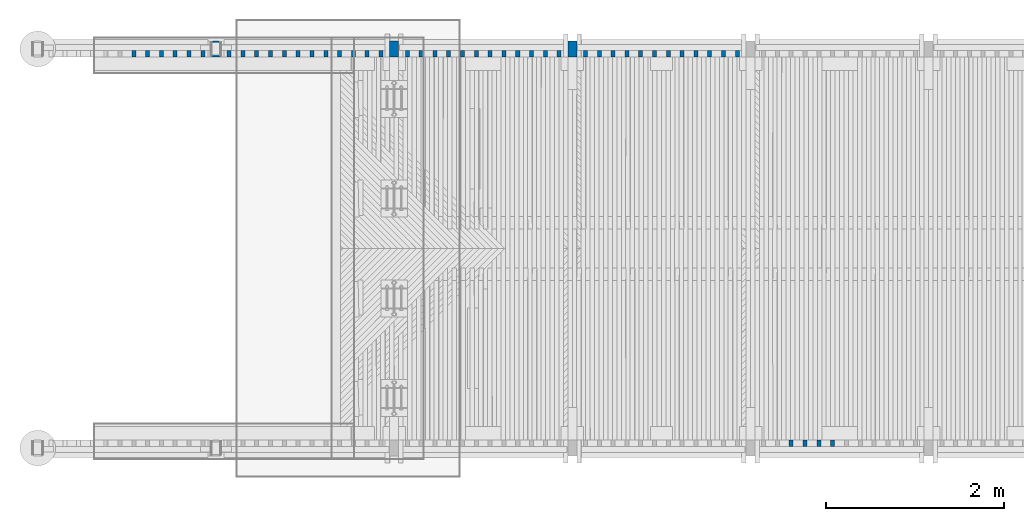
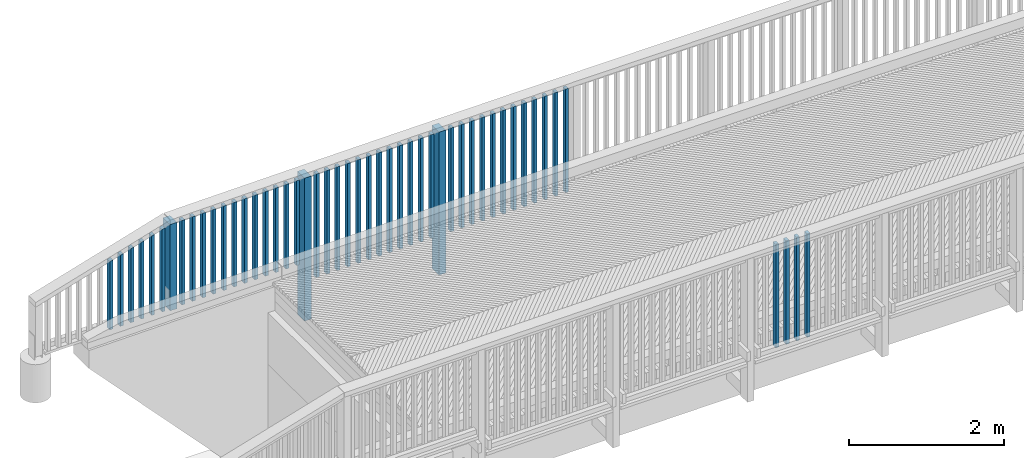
# One storey, part 7 of 52: 49 columns.
"""IFC2X3 building model written with IfcOpenShell, lengths in millimetres."""

from ifc_helpers import new_model, si_unit, frame, origin_with_axes, place, context, subcontext, project, spatial, faceted_brep, material, type_object, element, save


model = new_model("IFC2X3")

# Units and contexts
model_context = context("Model", 3, precision=1e-05, world=origin_with_axes())
body_context = subcontext(model_context, "Body", "Model", "MODEL_VIEW")
ifc_project = project(units=[si_unit("LENGTHUNIT", "METRE", prefix="MILLI"), si_unit("AREAUNIT", "SQUARE_METRE"), si_unit("VOLUMEUNIT", "CUBIC_METRE"), si_unit("MASSUNIT", "GRAM", prefix="KILO"), si_unit("TIMEUNIT", "SECOND"), si_unit("PLANEANGLEUNIT", "RADIAN"), si_unit("SOLIDANGLEUNIT", "STERADIAN"), si_unit("THERMODYNAMICTEMPERATUREUNIT", "DEGREE_CELSIUS"), si_unit("LUMINOUSINTENSITYUNIT", "LUMEN")], contexts=[model_context])

# Site, building, storey
site_placement = place(None, origin_with_axes())
site = spatial("IfcSite", under=ifc_project, at=site_placement, Name="Undefined", CompositionType="ELEMENT")
building_placement = place(site_placement, origin_with_axes())
building = spatial("IfcBuilding", under=site, at=building_placement, Name="Undefined", CompositionType="ELEMENT")
storey_placement = place(building_placement, origin_with_axes())
storey = spatial("IfcBuildingStorey", under=building, at=storey_placement, Name="Undefined", CompositionType="ELEMENT", Elevation=0.0)

# Columns
ifc_material = material(Name="TIMBER/Timber_Undefined")
column_type_1 = type_object("IfcColumnType", Name="180*100", PredefinedType="NOTDEFINED")
for number, where, z_axis, x_axis in (
    (1, (2000.00006783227, 4604.98790809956, 2283.46176658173), (0.0, -1.0, 0.0), (0.0, 0.0, 1.0)),
    (2, (7.51175321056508e-07, 4604.98790809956, 2260.26), (0.0, -1.0, 0.0), (0.0, 0.0, 1.0)),
):
    element("IfcColumn", number, at=place(storey_placement, frame(where, z_axis=z_axis, x_axis=x_axis)), inside=storey, type_object=column_type_1, material=ifc_material, Name="KAIDEPYLVÄS", ObjectType="180*100", context=body_context, shape_type="Brep", body=[
        faceted_brep([(0.0, 50.0, -90.0), (0.0, 50.0, 90.0), (2250.0, 50.0, 90.0), (2250.0, 50.0, -90.0), (0.0, -50.0, 90.0), (2250.0, -50.0, 90.0), (0.0, -50.0, -90.0), (2250.0, -50.0, -90.0)], [[[0, 1, 2, 3]], [[1, 4, 5, 2]], [[4, 6, 7, 5]], [[6, 0, 3, 7]], [[5, 7, 3, 2]], [[6, 4, 1, 0]]]),
    ])
column_1_placement = place(storey_placement, frame((-1999.99999924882, 4604.98790809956, 3128.37999999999), z_axis=(0.0, -1.0, 0.0), x_axis=(0.0, 0.0, 1.0)))
element("IfcColumn", 3, at=column_1_placement, inside=storey, type_object=column_type_1, material=ifc_material, Name="KAIDEPYLVÄS", ObjectType="180*100", context=body_context, shape_type="Brep", body=[
    faceted_brep([(-5.71000000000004, 50.0, -90.0), (-5.71000000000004, 50.0, 90.0), (1351.21940355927, 50.0, 90.0), (1351.21940355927, 50.0, -90.0), (-5.71000000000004, -50.0, 90.0), (1352.87649222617, -50.0, 90.0), (-5.71000000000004, -50.0, -90.0), (1352.87649222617, -50.0, -90.0)], [[[0, 1, 2, 3]], [[1, 4, 5, 2]], [[4, 6, 7, 5]], [[6, 0, 3, 7]], [[5, 7, 3, 2]], [[6, 4, 1, 0]]]),
])
column_type_2 = type_object("IfcColumnType", Name="70*45", PredefinedType="NOTDEFINED")
column_2_placement = place(storey_placement, frame((3852.50000075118, 4549.98790809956, 3109.68000000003), z_axis=(0.0, 1.0, 0.0), x_axis=(0.0, 0.0, 1.0)))
element("IfcColumn", 4, at=column_2_placement, inside=storey, type_object=column_type_2, material=ifc_material, Name="BEAM", ObjectType="70*45", context=body_context, shape_type="Brep", body=[
    faceted_brep([(-190.293697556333, 22.5, -35.0), (-190.293697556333, 22.5, 35.0), (1439.69971686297, 22.5, 35.0), (1439.69971686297, 22.5, -35.0), (-190.686194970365, -22.5, 35.0), (1439.30721944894, -22.5, 35.0), (-190.686194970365, -22.5, -35.0), (1439.30721944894, -22.5, -35.0)], [[[0, 1, 2, 3]], [[1, 4, 5, 2]], [[4, 6, 7, 5]], [[6, 0, 3, 7]], [[5, 7, 3, 2]], [[6, 4, 1, 0]]]),
])
column_3_placement = place(storey_placement, frame((3697.50000075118, 4549.98790809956, 3109.68000000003), z_axis=(0.0, 1.0, 0.0), x_axis=(0.0, 0.0, 1.0)))
element("IfcColumn", 5, at=column_3_placement, inside=storey, type_object=column_type_2, material=ifc_material, Name="BEAM", ObjectType="70*45", context=body_context, shape_type="Brep", body=[
    faceted_brep([(-191.645633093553, 22.5, -35.0), (-191.645633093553, 22.5, 35.0), (1438.34778132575, 22.5, 35.0), (1438.34778132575, 22.5, -35.0), (-192.038130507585, -22.5, 35.0), (1437.95528391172, -22.5, 35.0), (-192.038130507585, -22.5, -35.0), (1437.95528391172, -22.5, -35.0)], [[[0, 1, 2, 3]], [[1, 4, 5, 2]], [[4, 6, 7, 5]], [[6, 0, 3, 7]], [[5, 7, 3, 2]], [[6, 4, 1, 0]]]),
])
column_4_placement = place(storey_placement, frame((3542.50000075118, 4549.98790809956, 3109.68000000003), z_axis=(0.0, 1.0, 0.0), x_axis=(0.0, 0.0, 1.0)))
element("IfcColumn", 6, at=column_4_placement, inside=storey, type_object=column_type_2, material=ifc_material, Name="BEAM", ObjectType="70*45", context=body_context, shape_type="Brep", body=[
    faceted_brep([(-192.997568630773, 22.5, -35.0), (-192.997568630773, 22.5, 35.0), (1436.99584578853, 22.5, 35.0), (1436.99584578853, 22.5, -35.0), (-193.390066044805, -22.5, 35.0), (1436.6033483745, -22.5, 35.0), (-193.390066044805, -22.5, -35.0), (1436.6033483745, -22.5, -35.0)], [[[0, 1, 2, 3]], [[1, 4, 5, 2]], [[4, 6, 7, 5]], [[6, 0, 3, 7]], [[5, 7, 3, 2]], [[6, 4, 1, 0]]]),
])
column_5_placement = place(storey_placement, frame((3387.50000075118, 4549.98790809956, 3109.68000000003), z_axis=(0.0, 1.0, 0.0), x_axis=(0.0, 0.0, 1.0)))
element("IfcColumn", 7, at=column_5_placement, inside=storey, type_object=column_type_2, material=ifc_material, Name="BEAM", ObjectType="70*45", context=body_context, shape_type="Brep", body=[
    faceted_brep([(-194.349504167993, 22.5, -35.0), (-194.349504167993, 22.5, 35.0), (1435.64391025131, 22.5, 35.0), (1435.64391025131, 22.5, -35.0), (-194.742001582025, -22.5, 35.0), (1435.25141283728, -22.5, 35.0), (-194.742001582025, -22.5, -35.0), (1435.25141283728, -22.5, -35.0)], [[[0, 1, 2, 3]], [[1, 4, 5, 2]], [[4, 6, 7, 5]], [[6, 0, 3, 7]], [[5, 7, 3, 2]], [[6, 4, 1, 0]]]),
])
column_6_placement = place(storey_placement, frame((3232.50000075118, 4549.98790809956, 3109.68000000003), z_axis=(0.0, 1.0, 0.0), x_axis=(0.0, 0.0, 1.0)))
element("IfcColumn", 8, at=column_6_placement, inside=storey, type_object=column_type_2, material=ifc_material, Name="BEAM", ObjectType="70*45", context=body_context, shape_type="Brep", body=[
    faceted_brep([(-195.701439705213, 22.5, -35.0), (-195.701439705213, 22.5, 35.0), (1434.29197471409, 22.5, 35.0), (1434.29197471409, 22.5, -35.0), (-196.093937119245, -22.5, 35.0), (1433.89947730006, -22.5, 35.0), (-196.093937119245, -22.5, -35.0), (1433.89947730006, -22.5, -35.0)], [[[0, 1, 2, 3]], [[1, 4, 5, 2]], [[4, 6, 7, 5]], [[6, 0, 3, 7]], [[5, 7, 3, 2]], [[6, 4, 1, 0]]]),
])
column_7_placement = place(storey_placement, frame((3077.50000075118, 4549.98790809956, 3109.68000000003), z_axis=(0.0, 1.0, 0.0), x_axis=(0.0, 0.0, 1.0)))
element("IfcColumn", 9, at=column_7_placement, inside=storey, type_object=column_type_2, material=ifc_material, Name="BEAM", ObjectType="70*45", context=body_context, shape_type="Brep", body=[
    faceted_brep([(-197.053375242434, 22.5, -35.0), (-197.053375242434, 22.5, 35.0), (1432.94003917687, 22.5, 35.0), (1432.94003917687, 22.5, -35.0), (-197.445872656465, -22.5, 35.0), (1432.54754176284, -22.5, 35.0), (-197.445872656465, -22.5, -35.0), (1432.54754176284, -22.5, -35.0)], [[[0, 1, 2, 3]], [[1, 4, 5, 2]], [[4, 6, 7, 5]], [[6, 0, 3, 7]], [[5, 7, 3, 2]], [[6, 4, 1, 0]]]),
])
column_8_placement = place(storey_placement, frame((2922.50000075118, 4549.98790809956, 3109.68000000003), z_axis=(0.0, 1.0, 0.0), x_axis=(0.0, 0.0, 1.0)))
element("IfcColumn", 10, at=column_8_placement, inside=storey, type_object=column_type_2, material=ifc_material, Name="BEAM", ObjectType="70*45", context=body_context, shape_type="Brep", body=[
    faceted_brep([(-198.405310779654, 22.5, -35.0), (-198.405310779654, 22.5, 35.0), (1431.58810363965, 22.5, 35.0), (1431.58810363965, 22.5, -35.0), (-198.797808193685, -22.5, 35.0), (1431.19560622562, -22.5, 35.0), (-198.797808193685, -22.5, -35.0), (1431.19560622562, -22.5, -35.0)], [[[0, 1, 2, 3]], [[1, 4, 5, 2]], [[4, 6, 7, 5]], [[6, 0, 3, 7]], [[5, 7, 3, 2]], [[6, 4, 1, 0]]]),
])
column_9_placement = place(storey_placement, frame((2767.50000075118, 4549.98790809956, 3109.68000000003), z_axis=(0.0, 1.0, 0.0), x_axis=(0.0, 0.0, 1.0)))
element("IfcColumn", 11, at=column_9_placement, inside=storey, type_object=column_type_2, material=ifc_material, Name="BEAM", ObjectType="70*45", context=body_context, shape_type="Brep", body=[
    faceted_brep([(-199.757246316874, 22.5, -35.0), (-199.757246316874, 22.5, 35.0), (1430.23616810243, 22.5, 35.0), (1430.23616810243, 22.5, -35.0), (-200.149743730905, -22.5, 35.0), (1429.8436706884, -22.5, 35.0), (-200.149743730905, -22.5, -35.0), (1429.8436706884, -22.5, -35.0)], [[[0, 1, 2, 3]], [[1, 4, 5, 2]], [[4, 6, 7, 5]], [[6, 0, 3, 7]], [[5, 7, 3, 2]], [[6, 4, 1, 0]]]),
])
column_10_placement = place(storey_placement, frame((2612.50000075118, 4549.98790809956, 3109.68000000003), z_axis=(0.0, 1.0, 0.0), x_axis=(0.0, 0.0, 1.0)))
element("IfcColumn", 12, at=column_10_placement, inside=storey, type_object=column_type_2, material=ifc_material, Name="BEAM", ObjectType="70*45", context=body_context, shape_type="Brep", body=[
    faceted_brep([(-201.109181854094, 22.5, -35.0), (-201.109181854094, 22.5, 35.0), (1428.88423256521, 22.5, 35.0), (1428.88423256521, 22.5, -35.0), (-201.501679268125, -22.5, 35.0), (1428.49173515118, -22.5, 35.0), (-201.501679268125, -22.5, -35.0), (1428.49173515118, -22.5, -35.0)], [[[0, 1, 2, 3]], [[1, 4, 5, 2]], [[4, 6, 7, 5]], [[6, 0, 3, 7]], [[5, 7, 3, 2]], [[6, 4, 1, 0]]]),
])
column_11_placement = place(storey_placement, frame((2457.50000075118, 4549.98790809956, 3109.68000000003), z_axis=(0.0, 1.0, 0.0), x_axis=(0.0, 0.0, 1.0)))
element("IfcColumn", 13, at=column_11_placement, inside=storey, type_object=column_type_2, material=ifc_material, Name="BEAM", ObjectType="70*45", context=body_context, shape_type="Brep", body=[
    faceted_brep([(-202.461117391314, 22.5, -35.0), (-202.461117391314, 22.5, 35.0), (1427.53229702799, 22.5, 35.0), (1427.53229702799, 22.5, -35.0), (-202.853614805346, -22.5, 35.0), (1427.13979961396, -22.5, 35.0), (-202.853614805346, -22.5, -35.0), (1427.13979961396, -22.5, -35.0)], [[[0, 1, 2, 3]], [[1, 4, 5, 2]], [[4, 6, 7, 5]], [[6, 0, 3, 7]], [[5, 7, 3, 2]], [[6, 4, 1, 0]]]),
])
column_12_placement = place(storey_placement, frame((2302.50000075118, 4549.98790809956, 3109.68000000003), z_axis=(0.0, 1.0, 0.0), x_axis=(0.0, 0.0, 1.0)))
element("IfcColumn", 14, at=column_12_placement, inside=storey, type_object=column_type_2, material=ifc_material, Name="BEAM", ObjectType="70*45", context=body_context, shape_type="Brep", body=[
    faceted_brep([(-203.813052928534, 22.5, -35.0), (-203.813052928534, 22.5, 35.0), (1426.18036149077, 22.5, 35.0), (1426.18036149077, 22.5, -35.0), (-204.205550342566, -22.5, 35.0), (1425.78786407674, -22.5, 35.0), (-204.205550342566, -22.5, -35.0), (1425.78786407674, -22.5, -35.0)], [[[0, 1, 2, 3]], [[1, 4, 5, 2]], [[4, 6, 7, 5]], [[6, 0, 3, 7]], [[5, 7, 3, 2]], [[6, 4, 1, 0]]]),
])
column_13_placement = place(storey_placement, frame((2147.50000075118, 4549.98790809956, 3109.68000000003), z_axis=(0.0, 1.0, 0.0), x_axis=(0.0, 0.0, 1.0)))
element("IfcColumn", 15, at=column_13_placement, inside=storey, type_object=column_type_2, material=ifc_material, Name="BEAM", ObjectType="70*45", context=body_context, shape_type="Brep", body=[
    faceted_brep([(-205.164988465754, 22.5, -35.0), (-205.164988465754, 22.5, 35.0), (1424.82842595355, 22.5, 35.0), (1424.82842595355, 22.5, -35.0), (-205.557485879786, -22.5, 35.0), (1424.43592853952, -22.5, 35.0), (-205.557485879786, -22.5, -35.0), (1424.43592853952, -22.5, -35.0)], [[[0, 1, 2, 3]], [[1, 4, 5, 2]], [[4, 6, 7, 5]], [[6, 0, 3, 7]], [[5, 7, 3, 2]], [[6, 4, 1, 0]]]),
])
column_14_placement = place(storey_placement, frame((1852.50000075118, 4549.98790809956, 3109.68000000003), z_axis=(0.0, 1.0, 0.0), x_axis=(0.0, 0.0, 1.0)))
element("IfcColumn", 16, at=column_14_placement, inside=storey, type_object=column_type_2, material=ifc_material, Name="BEAM", ObjectType="70*45", context=body_context, shape_type="Brep", body=[
    faceted_brep([(-207.130064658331, 22.5, -35.0), (-207.130064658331, 22.5, 35.0), (1422.86590579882, 22.5, 35.0), (1422.86590579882, 22.5, -35.0), (-207.679580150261, -22.5, 35.0), (1422.31639030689, -22.5, 35.0), (-207.679580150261, -22.5, -35.0), (1422.31639030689, -22.5, -35.0)], [[[0, 1, 2, 3]], [[1, 4, 5, 2]], [[4, 6, 7, 5]], [[6, 0, 3, 7]], [[5, 7, 3, 2]], [[6, 4, 1, 0]]]),
])
column_15_placement = place(storey_placement, frame((1697.50000075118, 4549.98790809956, 3109.68000000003), z_axis=(0.0, 1.0, 0.0), x_axis=(0.0, 0.0, 1.0)))
element("IfcColumn", 17, at=column_15_placement, inside=storey, type_object=column_type_2, material=ifc_material, Name="BEAM", ObjectType="70*45", context=body_context, shape_type="Brep", body=[
    faceted_brep([(-209.022840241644, 22.5, -35.0), (-209.022840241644, 22.5, 35.0), (1420.97313021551, 22.5, 35.0), (1420.97313021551, 22.5, -35.0), (-209.572355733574, -22.5, 35.0), (1420.42361472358, -22.5, 35.0), (-209.572355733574, -22.5, -35.0), (1420.42361472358, -22.5, -35.0)], [[[0, 1, 2, 3]], [[1, 4, 5, 2]], [[4, 6, 7, 5]], [[6, 0, 3, 7]], [[5, 7, 3, 2]], [[6, 4, 1, 0]]]),
])
column_16_placement = place(storey_placement, frame((1542.50000075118, 4549.98790809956, 3109.68000000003), z_axis=(0.0, 1.0, 0.0), x_axis=(0.0, 0.0, 1.0)))
element("IfcColumn", 18, at=column_16_placement, inside=storey, type_object=column_type_2, material=ifc_material, Name="BEAM", ObjectType="70*45", context=body_context, shape_type="Brep", body=[
    faceted_brep([(-210.915615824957, 22.5, -35.0), (-210.915615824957, 22.5, 35.0), (1419.0803546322, 22.5, 35.0), (1419.0803546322, 22.5, -35.0), (-211.465131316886, -22.5, 35.0), (1418.53083914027, -22.5, 35.0), (-211.465131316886, -22.5, -35.0), (1418.53083914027, -22.5, -35.0)], [[[0, 1, 2, 3]], [[1, 4, 5, 2]], [[4, 6, 7, 5]], [[6, 0, 3, 7]], [[5, 7, 3, 2]], [[6, 4, 1, 0]]]),
])
column_17_placement = place(storey_placement, frame((1387.50000075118, 4549.98790809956, 3109.68000000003), z_axis=(0.0, 1.0, 0.0), x_axis=(0.0, 0.0, 1.0)))
element("IfcColumn", 19, at=column_17_placement, inside=storey, type_object=column_type_2, material=ifc_material, Name="BEAM", ObjectType="70*45", context=body_context, shape_type="Brep", body=[
    faceted_brep([(-212.808391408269, 22.5, -35.0), (-212.808391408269, 22.5, 35.0), (1417.18757904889, 22.5, 35.0), (1417.18757904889, 22.5, -35.0), (-213.357906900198, -22.5, 35.0), (1416.63806355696, -22.5, 35.0), (-213.357906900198, -22.5, -35.0), (1416.63806355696, -22.5, -35.0)], [[[0, 1, 2, 3]], [[1, 4, 5, 2]], [[4, 6, 7, 5]], [[6, 0, 3, 7]], [[5, 7, 3, 2]], [[6, 4, 1, 0]]]),
])
column_18_placement = place(storey_placement, frame((1232.50000075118, 4549.98790809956, 3109.68000000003), z_axis=(0.0, 1.0, 0.0), x_axis=(0.0, 0.0, 1.0)))
element("IfcColumn", 20, at=column_18_placement, inside=storey, type_object=column_type_2, material=ifc_material, Name="BEAM", ObjectType="70*45", context=body_context, shape_type="Brep", body=[
    faceted_brep([(-214.701166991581, 22.5, -35.0), (-214.701166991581, 22.5, 35.0), (1415.29480346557, 22.5, 35.0), (1415.29480346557, 22.5, -35.0), (-215.250682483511, -22.5, 35.0), (1414.74528797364, -22.5, 35.0), (-215.250682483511, -22.5, -35.0), (1414.74528797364, -22.5, -35.0)], [[[0, 1, 2, 3]], [[1, 4, 5, 2]], [[4, 6, 7, 5]], [[6, 0, 3, 7]], [[5, 7, 3, 2]], [[6, 4, 1, 0]]]),
])
column_19_placement = place(storey_placement, frame((1077.50000075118, 4549.98790809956, 3109.68000000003), z_axis=(0.0, 1.0, 0.0), x_axis=(0.0, 0.0, 1.0)))
element("IfcColumn", 21, at=column_19_placement, inside=storey, type_object=column_type_2, material=ifc_material, Name="BEAM", ObjectType="70*45", context=body_context, shape_type="Brep", body=[
    faceted_brep([(-216.593942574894, 22.5, -35.0), (-216.593942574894, 22.5, 35.0), (1413.40202788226, 22.5, 35.0), (1413.40202788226, 22.5, -35.0), (-217.143458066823, -22.5, 35.0), (1412.85251239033, -22.5, 35.0), (-217.143458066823, -22.5, -35.0), (1412.85251239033, -22.5, -35.0)], [[[0, 1, 2, 3]], [[1, 4, 5, 2]], [[4, 6, 7, 5]], [[6, 0, 3, 7]], [[5, 7, 3, 2]], [[6, 4, 1, 0]]]),
])
column_20_placement = place(storey_placement, frame((922.500000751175, 4549.98790809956, 3109.68000000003), z_axis=(0.0, 1.0, 0.0), x_axis=(0.0, 0.0, 1.0)))
element("IfcColumn", 22, at=column_20_placement, inside=storey, type_object=column_type_2, material=ifc_material, Name="BEAM", ObjectType="70*45", context=body_context, shape_type="Brep", body=[
    faceted_brep([(-218.486718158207, 22.5, -35.0), (-218.486718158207, 22.5, 35.0), (1411.50925229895, 22.5, 35.0), (1411.50925229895, 22.5, -35.0), (-219.036233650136, -22.5, 35.0), (1410.95973680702, -22.5, 35.0), (-219.036233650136, -22.5, -35.0), (1410.95973680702, -22.5, -35.0)], [[[0, 1, 2, 3]], [[1, 4, 5, 2]], [[4, 6, 7, 5]], [[6, 0, 3, 7]], [[5, 7, 3, 2]], [[6, 4, 1, 0]]]),
])
column_21_placement = place(storey_placement, frame((767.500000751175, 4549.98790809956, 3109.68000000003), z_axis=(0.0, 1.0, 0.0), x_axis=(0.0, 0.0, 1.0)))
element("IfcColumn", 23, at=column_21_placement, inside=storey, type_object=column_type_2, material=ifc_material, Name="BEAM", ObjectType="70*45", context=body_context, shape_type="Brep", body=[
    faceted_brep([(-220.379493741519, 22.5, -35.0), (-220.379493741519, 22.5, 35.0), (1409.61647671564, 22.5, 35.0), (1409.61647671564, 22.5, -35.0), (-220.929009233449, -22.5, 35.0), (1409.06696122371, -22.5, 35.0), (-220.929009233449, -22.5, -35.0), (1409.06696122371, -22.5, -35.0)], [[[0, 1, 2, 3]], [[1, 4, 5, 2]], [[4, 6, 7, 5]], [[6, 0, 3, 7]], [[5, 7, 3, 2]], [[6, 4, 1, 0]]]),
])
column_22_placement = place(storey_placement, frame((612.500000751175, 4549.98790809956, 3109.68000000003), z_axis=(0.0, 1.0, 0.0), x_axis=(0.0, 0.0, 1.0)))
element("IfcColumn", 24, at=column_22_placement, inside=storey, type_object=column_type_2, material=ifc_material, Name="BEAM", ObjectType="70*45", context=body_context, shape_type="Brep", body=[
    faceted_brep([(-222.272269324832, 22.5, -35.0), (-222.272269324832, 22.5, 35.0), (1407.72370113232, 22.5, 35.0), (1407.72370113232, 22.5, -35.0), (-222.821784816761, -22.5, 35.0), (1407.17418564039, -22.5, 35.0), (-222.821784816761, -22.5, -35.0), (1407.17418564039, -22.5, -35.0)], [[[0, 1, 2, 3]], [[1, 4, 5, 2]], [[4, 6, 7, 5]], [[6, 0, 3, 7]], [[5, 7, 3, 2]], [[6, 4, 1, 0]]]),
])
column_23_placement = place(storey_placement, frame((457.500000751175, 4549.98790809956, 3109.68000000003), z_axis=(0.0, 1.0, 0.0), x_axis=(0.0, 0.0, 1.0)))
element("IfcColumn", 25, at=column_23_placement, inside=storey, type_object=column_type_2, material=ifc_material, Name="BEAM", ObjectType="70*45", context=body_context, shape_type="Brep", body=[
    faceted_brep([(-224.165044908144, 22.5, -35.0), (-224.165044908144, 22.5, 35.0), (1405.83092554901, 22.5, 35.0), (1405.83092554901, 22.5, -35.0), (-224.714560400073, -22.5, 35.0), (1405.28141005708, -22.5, 35.0), (-224.714560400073, -22.5, -35.0), (1405.28141005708, -22.5, -35.0)], [[[0, 1, 2, 3]], [[1, 4, 5, 2]], [[4, 6, 7, 5]], [[6, 0, 3, 7]], [[5, 7, 3, 2]], [[6, 4, 1, 0]]]),
])
column_24_placement = place(storey_placement, frame((302.500000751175, 4549.98790809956, 3109.68000000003), z_axis=(0.0, 1.0, 0.0), x_axis=(0.0, 0.0, 1.0)))
element("IfcColumn", 26, at=column_24_placement, inside=storey, type_object=column_type_2, material=ifc_material, Name="BEAM", ObjectType="70*45", context=body_context, shape_type="Brep", body=[
    faceted_brep([(-226.057820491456, 22.5, -35.0), (-226.057820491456, 22.5, 35.0), (1403.9381499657, 22.5, 35.0), (1403.9381499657, 22.5, -35.0), (-226.607335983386, -22.5, 35.0), (1403.38863447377, -22.5, 35.0), (-226.607335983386, -22.5, -35.0), (1403.38863447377, -22.5, -35.0)], [[[0, 1, 2, 3]], [[1, 4, 5, 2]], [[4, 6, 7, 5]], [[6, 0, 3, 7]], [[5, 7, 3, 2]], [[6, 4, 1, 0]]]),
])
column_25_placement = place(storey_placement, frame((147.500000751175, 4549.98790809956, 3109.68000000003), z_axis=(0.0, 1.0, 0.0), x_axis=(0.0, 0.0, 1.0)))
element("IfcColumn", 27, at=column_25_placement, inside=storey, type_object=column_type_2, material=ifc_material, Name="BEAM", ObjectType="70*45", context=body_context, shape_type="Brep", body=[
    faceted_brep([(-227.950596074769, 22.5, -35.0), (-227.950596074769, 22.5, 35.0), (1402.04537438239, 22.5, 35.0), (1402.04537438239, 22.5, -35.0), (-228.500111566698, -22.5, 35.0), (1401.49585889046, -22.5, 35.0), (-228.500111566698, -22.5, -35.0), (1401.49585889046, -22.5, -35.0)], [[[0, 1, 2, 3]], [[1, 4, 5, 2]], [[4, 6, 7, 5]], [[6, 0, 3, 7]], [[5, 7, 3, 2]], [[6, 4, 1, 0]]]),
])
column_26_placement = place(storey_placement, frame((-2147.49999924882, 4549.98790809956, 3079.15), z_axis=(0.0, 1.0, 0.0), x_axis=(0.0, 0.0, 1.0)))
element("IfcColumn", 28, at=column_26_placement, inside=storey, type_object=column_type_2, material=ifc_material, Name="BEAM", ObjectType="70*45", context=body_context, shape_type="Brep", body=[
    faceted_brep([(69.4380529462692, 22.5, -35.0), (69.4380529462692, 22.5, 35.0), (1375.94682334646, 22.5, 35.0), (1375.94682334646, 22.5, -35.0), (68.751055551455, -22.5, 35.0), (1362.51131766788, -22.5, 35.0), (68.751055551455, -22.5, -35.0), (1362.51131766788, -22.5, -35.0)], [[[0, 1, 2, 3]], [[1, 4, 5, 2]], [[4, 6, 7, 5]], [[6, 0, 3, 7]], [[5, 7, 3, 2]], [[6, 4, 1, 0]]]),
])
column_27_placement = place(storey_placement, frame((-2302.49999924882, 4549.98790809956, 3079.15), z_axis=(0.0, 1.0, 0.0), x_axis=(0.0, 0.0, 1.0)))
element("IfcColumn", 29, at=column_27_placement, inside=storey, type_object=column_type_2, material=ifc_material, Name="BEAM", ObjectType="70*45", context=body_context, shape_type="Brep", body=[
    faceted_brep([(67.0717285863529, 22.5, -35.0), (67.0717285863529, 22.5, 35.0), (1329.66897045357, 22.5, 35.0), (1329.66897045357, 22.5, -35.0), (66.3847311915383, -22.5, 35.0), (1316.23346477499, -22.5, 35.0), (66.3847311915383, -22.5, -35.0), (1316.23346477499, -22.5, -35.0)], [[[0, 1, 2, 3]], [[1, 4, 5, 2]], [[4, 6, 7, 5]], [[6, 0, 3, 7]], [[5, 7, 3, 2]], [[6, 4, 1, 0]]]),
])
column_28_placement = place(storey_placement, frame((-2457.49999924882, 4549.98790809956, 3079.15), z_axis=(0.0, 1.0, 0.0), x_axis=(0.0, 0.0, 1.0)))
element("IfcColumn", 30, at=column_28_placement, inside=storey, type_object=column_type_2, material=ifc_material, Name="BEAM", ObjectType="70*45", context=body_context, shape_type="Brep", body=[
    faceted_brep([(64.7054042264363, 22.5, -35.0), (64.7054042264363, 22.5, 35.0), (1283.39111756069, 22.5, 35.0), (1283.39111756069, 22.5, -35.0), (64.0184068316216, -22.5, 35.0), (1269.95561188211, -22.5, 35.0), (64.0184068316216, -22.5, -35.0), (1269.95561188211, -22.5, -35.0)], [[[0, 1, 2, 3]], [[1, 4, 5, 2]], [[4, 6, 7, 5]], [[6, 0, 3, 7]], [[5, 7, 3, 2]], [[6, 4, 1, 0]]]),
])
column_29_placement = place(storey_placement, frame((-2612.49999924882, 4549.98790809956, 3079.15), z_axis=(0.0, 1.0, 0.0), x_axis=(0.0, 0.0, 1.0)))
element("IfcColumn", 31, at=column_29_placement, inside=storey, type_object=column_type_2, material=ifc_material, Name="BEAM", ObjectType="70*45", context=body_context, shape_type="Brep", body=[
    faceted_brep([(62.3390798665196, 22.5, -35.0), (62.3390798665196, 22.5, 35.0), (1237.1132646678, 22.5, 35.0), (1237.1132646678, 22.5, -35.0), (61.6520824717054, -22.5, 35.0), (1223.67775898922, -22.5, 35.0), (61.6520824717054, -22.5, -35.0), (1223.67775898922, -22.5, -35.0)], [[[0, 1, 2, 3]], [[1, 4, 5, 2]], [[4, 6, 7, 5]], [[6, 0, 3, 7]], [[5, 7, 3, 2]], [[6, 4, 1, 0]]]),
])
column_30_placement = place(storey_placement, frame((-2767.49999924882, 4549.98790809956, 3079.15), z_axis=(0.0, 1.0, 0.0), x_axis=(0.0, 0.0, 1.0)))
element("IfcColumn", 32, at=column_30_placement, inside=storey, type_object=column_type_2, material=ifc_material, Name="BEAM", ObjectType="70*45", context=body_context, shape_type="Brep", body=[
    faceted_brep([(59.9727555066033, 22.5, -35.0), (59.9727555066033, 22.5, 35.0), (1190.83541177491, 22.5, 35.0), (1190.83541177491, 22.5, -35.0), (59.2857581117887, -22.5, 35.0), (1177.39990609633, -22.5, 35.0), (59.2857581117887, -22.5, -35.0), (1177.39990609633, -22.5, -35.0)], [[[0, 1, 2, 3]], [[1, 4, 5, 2]], [[4, 6, 7, 5]], [[6, 0, 3, 7]], [[5, 7, 3, 2]], [[6, 4, 1, 0]]]),
])
column_31_placement = place(storey_placement, frame((-2922.49999924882, 4549.98790809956, 3079.15), z_axis=(0.0, 1.0, 0.0), x_axis=(0.0, 0.0, 1.0)))
element("IfcColumn", 33, at=column_31_placement, inside=storey, type_object=column_type_2, material=ifc_material, Name="BEAM", ObjectType="70*45", context=body_context, shape_type="Brep", body=[
    faceted_brep([(57.6064311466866, 22.5, -35.0), (57.6064311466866, 22.5, 35.0), (1144.55755888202, 22.5, 35.0), (1144.55755888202, 22.5, -35.0), (56.9194337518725, -22.5, 35.0), (1131.12205320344, -22.5, 35.0), (56.9194337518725, -22.5, -35.0), (1131.12205320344, -22.5, -35.0)], [[[0, 1, 2, 3]], [[1, 4, 5, 2]], [[4, 6, 7, 5]], [[6, 0, 3, 7]], [[5, 7, 3, 2]], [[6, 4, 1, 0]]]),
])
column_32_placement = place(storey_placement, frame((-147.499999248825, 4549.98790809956, 3109.68000000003), z_axis=(0.0, 1.0, 0.0), x_axis=(0.0, 0.0, 1.0)))
element("IfcColumn", 34, at=column_32_placement, inside=storey, type_object=column_type_2, material=ifc_material, Name="BEAM", ObjectType="70*45", context=body_context, shape_type="Brep", body=[
    faceted_brep([(69.4380529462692, 22.5, -35.0), (69.4380529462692, 22.5, 35.0), (1399.43805294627, 22.5, 35.0), (1399.43805294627, 22.5, -35.0), (68.751055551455, -22.5, 35.0), (1398.75105555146, -22.5, 35.0), (68.751055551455, -22.5, -35.0), (1398.75105555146, -22.5, -35.0)], [[[0, 1, 2, 3]], [[1, 4, 5, 2]], [[4, 6, 7, 5]], [[6, 0, 3, 7]], [[5, 7, 3, 2]], [[6, 4, 1, 0]]]),
])
column_33_placement = place(storey_placement, frame((-302.499999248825, 4549.98790809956, 3109.68000000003), z_axis=(0.0, 1.0, 0.0), x_axis=(0.0, 0.0, 1.0)))
element("IfcColumn", 35, at=column_33_placement, inside=storey, type_object=column_type_2, material=ifc_material, Name="BEAM", ObjectType="70*45", context=body_context, shape_type="Brep", body=[
    faceted_brep([(67.0717285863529, 22.5, -35.0), (67.0717285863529, 22.5, 35.0), (1397.07172858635, 22.5, 35.0), (1397.07172858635, 22.5, -35.0), (66.3847311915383, -22.5, 35.0), (1396.38473119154, -22.5, 35.0), (66.3847311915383, -22.5, -35.0), (1396.38473119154, -22.5, -35.0)], [[[0, 1, 2, 3]], [[1, 4, 5, 2]], [[4, 6, 7, 5]], [[6, 0, 3, 7]], [[5, 7, 3, 2]], [[6, 4, 1, 0]]]),
])
column_34_placement = place(storey_placement, frame((-457.499999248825, 4549.98790809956, 3109.68000000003), z_axis=(0.0, 1.0, 0.0), x_axis=(0.0, 0.0, 1.0)))
element("IfcColumn", 36, at=column_34_placement, inside=storey, type_object=column_type_2, material=ifc_material, Name="BEAM", ObjectType="70*45", context=body_context, shape_type="Brep", body=[
    faceted_brep([(64.7054042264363, 22.5, -35.0), (64.7054042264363, 22.5, 35.0), (1394.70540422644, 22.5, 35.0), (1394.70540422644, 22.5, -35.0), (64.0184068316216, -22.5, 35.0), (1394.01840683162, -22.5, 35.0), (64.0184068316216, -22.5, -35.0), (1394.01840683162, -22.5, -35.0)], [[[0, 1, 2, 3]], [[1, 4, 5, 2]], [[4, 6, 7, 5]], [[6, 0, 3, 7]], [[5, 7, 3, 2]], [[6, 4, 1, 0]]]),
])
column_35_placement = place(storey_placement, frame((-612.499999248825, 4549.98790809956, 3109.68000000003), z_axis=(0.0, 1.0, 0.0), x_axis=(0.0, 0.0, 1.0)))
element("IfcColumn", 37, at=column_35_placement, inside=storey, type_object=column_type_2, material=ifc_material, Name="BEAM", ObjectType="70*45", context=body_context, shape_type="Brep", body=[
    faceted_brep([(62.3390798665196, 22.5, -35.0), (62.3390798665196, 22.5, 35.0), (1392.33907986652, 22.5, 35.0), (1392.33907986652, 22.5, -35.0), (61.6520824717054, -22.5, 35.0), (1391.65208247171, -22.5, 35.0), (61.6520824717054, -22.5, -35.0), (1391.65208247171, -22.5, -35.0)], [[[0, 1, 2, 3]], [[1, 4, 5, 2]], [[4, 6, 7, 5]], [[6, 0, 3, 7]], [[5, 7, 3, 2]], [[6, 4, 1, 0]]]),
])
column_36_placement = place(storey_placement, frame((-767.499999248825, 4549.98790809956, 3109.68000000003), z_axis=(0.0, 1.0, 0.0), x_axis=(0.0, 0.0, 1.0)))
element("IfcColumn", 38, at=column_36_placement, inside=storey, type_object=column_type_2, material=ifc_material, Name="BEAM", ObjectType="70*45", context=body_context, shape_type="Brep", body=[
    faceted_brep([(59.9727555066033, 22.5, -35.0), (59.9727555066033, 22.5, 35.0), (1389.97275550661, 22.5, 35.0), (1389.97275550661, 22.5, -35.0), (59.2857581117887, -22.5, 35.0), (1389.28575811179, -22.5, 35.0), (59.2857581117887, -22.5, -35.0), (1389.28575811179, -22.5, -35.0)], [[[0, 1, 2, 3]], [[1, 4, 5, 2]], [[4, 6, 7, 5]], [[6, 0, 3, 7]], [[5, 7, 3, 2]], [[6, 4, 1, 0]]]),
])
column_37_placement = place(storey_placement, frame((-922.499999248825, 4549.98790809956, 3109.68000000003), z_axis=(0.0, 1.0, 0.0), x_axis=(0.0, 0.0, 1.0)))
element("IfcColumn", 39, at=column_37_placement, inside=storey, type_object=column_type_2, material=ifc_material, Name="BEAM", ObjectType="70*45", context=body_context, shape_type="Brep", body=[
    faceted_brep([(57.6064311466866, 22.5, -35.0), (57.6064311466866, 22.5, 35.0), (1387.60643114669, 22.5, 35.0), (1387.60643114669, 22.5, -35.0), (56.9194337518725, -22.5, 35.0), (1386.91943375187, -22.5, 35.0), (56.9194337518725, -22.5, -35.0), (1386.91943375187, -22.5, -35.0)], [[[0, 1, 2, 3]], [[1, 4, 5, 2]], [[4, 6, 7, 5]], [[6, 0, 3, 7]], [[5, 7, 3, 2]], [[6, 4, 1, 0]]]),
])
column_38_placement = place(storey_placement, frame((-1077.49999924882, 4549.98790809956, 3109.68000000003), z_axis=(0.0, 1.0, 0.0), x_axis=(0.0, 0.0, 1.0)))
element("IfcColumn", 40, at=column_38_placement, inside=storey, type_object=column_type_2, material=ifc_material, Name="BEAM", ObjectType="70*45", context=body_context, shape_type="Brep", body=[
    faceted_brep([(55.2401067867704, 22.5, -35.0), (55.2401067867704, 22.5, 35.0), (1385.24010678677, 22.5, 35.0), (1385.24010678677, 22.5, -35.0), (54.5531093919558, -22.5, 35.0), (1384.55310939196, -22.5, 35.0), (54.5531093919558, -22.5, -35.0), (1384.55310939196, -22.5, -35.0)], [[[0, 1, 2, 3]], [[1, 4, 5, 2]], [[4, 6, 7, 5]], [[6, 0, 3, 7]], [[5, 7, 3, 2]], [[6, 4, 1, 0]]]),
])
column_39_placement = place(storey_placement, frame((-1232.49999924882, 4549.98790809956, 3109.68000000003), z_axis=(0.0, 1.0, 0.0), x_axis=(0.0, 0.0, 1.0)))
element("IfcColumn", 41, at=column_39_placement, inside=storey, type_object=column_type_2, material=ifc_material, Name="BEAM", ObjectType="70*45", context=body_context, shape_type="Brep", body=[
    faceted_brep([(52.8737824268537, 22.5, -35.0), (52.8737824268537, 22.5, 35.0), (1382.87378242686, 22.5, 35.0), (1382.87378242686, 22.5, -35.0), (52.1867850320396, -22.5, 35.0), (1382.18678503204, -22.5, 35.0), (52.1867850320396, -22.5, -35.0), (1382.18678503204, -22.5, -35.0)], [[[0, 1, 2, 3]], [[1, 4, 5, 2]], [[4, 6, 7, 5]], [[6, 0, 3, 7]], [[5, 7, 3, 2]], [[6, 4, 1, 0]]]),
])
column_40_placement = place(storey_placement, frame((-1387.49999924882, 4549.98790809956, 3109.68000000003), z_axis=(0.0, 1.0, 0.0), x_axis=(0.0, 0.0, 1.0)))
element("IfcColumn", 42, at=column_40_placement, inside=storey, type_object=column_type_2, material=ifc_material, Name="BEAM", ObjectType="70*45", context=body_context, shape_type="Brep", body=[
    faceted_brep([(50.5074580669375, 22.5, -35.0), (50.5074580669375, 22.5, 35.0), (1380.50745806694, 22.5, 35.0), (1380.50745806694, 22.5, -35.0), (49.8204606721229, -22.5, 35.0), (1379.82046067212, -22.5, 35.0), (49.8204606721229, -22.5, -35.0), (1379.82046067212, -22.5, -35.0)], [[[0, 1, 2, 3]], [[1, 4, 5, 2]], [[4, 6, 7, 5]], [[6, 0, 3, 7]], [[5, 7, 3, 2]], [[6, 4, 1, 0]]]),
])
column_41_placement = place(storey_placement, frame((-1542.49999924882, 4549.98790809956, 3109.68000000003), z_axis=(0.0, 1.0, 0.0), x_axis=(0.0, 0.0, 1.0)))
element("IfcColumn", 43, at=column_41_placement, inside=storey, type_object=column_type_2, material=ifc_material, Name="BEAM", ObjectType="70*45", context=body_context, shape_type="Brep", body=[
    faceted_brep([(48.1411337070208, 22.5, -35.0), (48.1411337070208, 22.5, 35.0), (1378.14113370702, 22.5, 35.0), (1378.14113370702, 22.5, -35.0), (47.4541363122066, -22.5, 35.0), (1377.45413631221, -22.5, 35.0), (47.4541363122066, -22.5, -35.0), (1377.45413631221, -22.5, -35.0)], [[[0, 1, 2, 3]], [[1, 4, 5, 2]], [[4, 6, 7, 5]], [[6, 0, 3, 7]], [[5, 7, 3, 2]], [[6, 4, 1, 0]]]),
])
column_42_placement = place(storey_placement, frame((-1697.49999924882, 4549.98790809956, 3109.68000000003), z_axis=(0.0, 1.0, 0.0), x_axis=(0.0, 0.0, 1.0)))
element("IfcColumn", 44, at=column_42_placement, inside=storey, type_object=column_type_2, material=ifc_material, Name="BEAM", ObjectType="70*45", context=body_context, shape_type="Brep", body=[
    faceted_brep([(45.7748093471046, 22.5, -35.0), (45.7748093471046, 22.5, 35.0), (1375.77480934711, 22.5, 35.0), (1375.77480934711, 22.5, -35.0), (45.0878119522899, -22.5, 35.0), (1375.08781195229, -22.5, 35.0), (45.0878119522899, -22.5, -35.0), (1375.08781195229, -22.5, -35.0)], [[[0, 1, 2, 3]], [[1, 4, 5, 2]], [[4, 6, 7, 5]], [[6, 0, 3, 7]], [[5, 7, 3, 2]], [[6, 4, 1, 0]]]),
])
column_43_placement = place(storey_placement, frame((-1852.49999924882, 4549.98790809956, 3109.68000000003), z_axis=(0.0, 1.0, 0.0), x_axis=(0.0, 0.0, 1.0)))
element("IfcColumn", 45, at=column_43_placement, inside=storey, type_object=column_type_2, material=ifc_material, Name="BEAM", ObjectType="70*45", context=body_context, shape_type="Brep", body=[
    faceted_brep([(43.4084849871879, 22.5, -35.0), (43.4084849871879, 22.5, 35.0), (1373.40848498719, 22.5, 35.0), (1373.40848498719, 22.5, -35.0), (42.7214875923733, -22.5, 35.0), (1372.72148759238, -22.5, 35.0), (42.7214875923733, -22.5, -35.0), (1372.72148759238, -22.5, -35.0)], [[[0, 1, 2, 3]], [[1, 4, 5, 2]], [[4, 6, 7, 5]], [[6, 0, 3, 7]], [[5, 7, 3, 2]], [[6, 4, 1, 0]]]),
])
column_44_placement = place(storey_placement, frame((4922.50000075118, 180.01209190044, 3106.97000000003), z_axis=(0.0, -1.0, 0.0), x_axis=(0.0, 0.0, 1.0)))
element("IfcColumn", 46, at=column_44_placement, inside=storey, type_object=column_type_2, material=ifc_material, Name="BEAM", ObjectType="70*45", context=body_context, shape_type="Brep", body=[
    faceted_brep([(-185.198870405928, 22.5, -35.0), (-185.198870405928, 22.5, 35.0), (1444.80208810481, 22.5, 35.0), (1444.80208810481, 22.5, -35.0), (-184.963377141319, -22.5, 35.0), (1445.03758136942, -22.5, 35.0), (-184.963377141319, -22.5, -35.0), (1445.03758136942, -22.5, -35.0)], [[[0, 1, 2, 3]], [[1, 4, 5, 2]], [[4, 6, 7, 5]], [[6, 0, 3, 7]], [[5, 7, 3, 2]], [[6, 4, 1, 0]]]),
])
column_45_placement = place(storey_placement, frame((4767.50000075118, 180.01209190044, 3106.97000000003), z_axis=(0.0, -1.0, 0.0), x_axis=(0.0, 0.0, 1.0)))
element("IfcColumn", 47, at=column_45_placement, inside=storey, type_object=column_type_2, material=ifc_material, Name="BEAM", ObjectType="70*45", context=body_context, shape_type="Brep", body=[
    faceted_brep([(-186.010013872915, 22.5, -35.0), (-186.010013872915, 22.5, 35.0), (1443.99094463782, 22.5, 35.0), (1443.99094463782, 22.5, -35.0), (-185.774520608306, -22.5, 35.0), (1444.22643790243, -22.5, 35.0), (-185.774520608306, -22.5, -35.0), (1444.22643790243, -22.5, -35.0)], [[[0, 1, 2, 3]], [[1, 4, 5, 2]], [[4, 6, 7, 5]], [[6, 0, 3, 7]], [[5, 7, 3, 2]], [[6, 4, 1, 0]]]),
])
column_46_placement = place(storey_placement, frame((4612.50000075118, 180.01209190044, 3106.97000000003), z_axis=(0.0, -1.0, 0.0), x_axis=(0.0, 0.0, 1.0)))
element("IfcColumn", 48, at=column_46_placement, inside=storey, type_object=column_type_2, material=ifc_material, Name="BEAM", ObjectType="70*45", context=body_context, shape_type="Brep", body=[
    faceted_brep([(-186.821157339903, 22.5, -35.0), (-186.821157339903, 22.5, 35.0), (1443.17980117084, 22.5, 35.0), (1443.17980117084, 22.5, -35.0), (-186.585664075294, -22.5, 35.0), (1443.41529443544, -22.5, 35.0), (-186.585664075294, -22.5, -35.0), (1443.41529443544, -22.5, -35.0)], [[[0, 1, 2, 3]], [[1, 4, 5, 2]], [[4, 6, 7, 5]], [[6, 0, 3, 7]], [[5, 7, 3, 2]], [[6, 4, 1, 0]]]),
])
column_47_placement = place(storey_placement, frame((4457.50000075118, 180.01209190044, 3106.97000000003), z_axis=(0.0, -1.0, 0.0), x_axis=(0.0, 0.0, 1.0)))
element("IfcColumn", 49, at=column_47_placement, inside=storey, type_object=column_type_2, material=ifc_material, Name="BEAM", ObjectType="70*45", context=body_context, shape_type="Brep", body=[
    faceted_brep([(-187.63230080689, 22.5, -35.0), (-187.63230080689, 22.5, 35.0), (1442.36865770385, 22.5, 35.0), (1442.36865770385, 22.5, -35.0), (-187.396807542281, -22.5, 35.0), (1442.60415096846, -22.5, 35.0), (-187.396807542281, -22.5, -35.0), (1442.60415096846, -22.5, -35.0)], [[[0, 1, 2, 3]], [[1, 4, 5, 2]], [[4, 6, 7, 5]], [[6, 0, 3, 7]], [[5, 7, 3, 2]], [[6, 4, 1, 0]]]),
])

save(model, "model.ifc")
